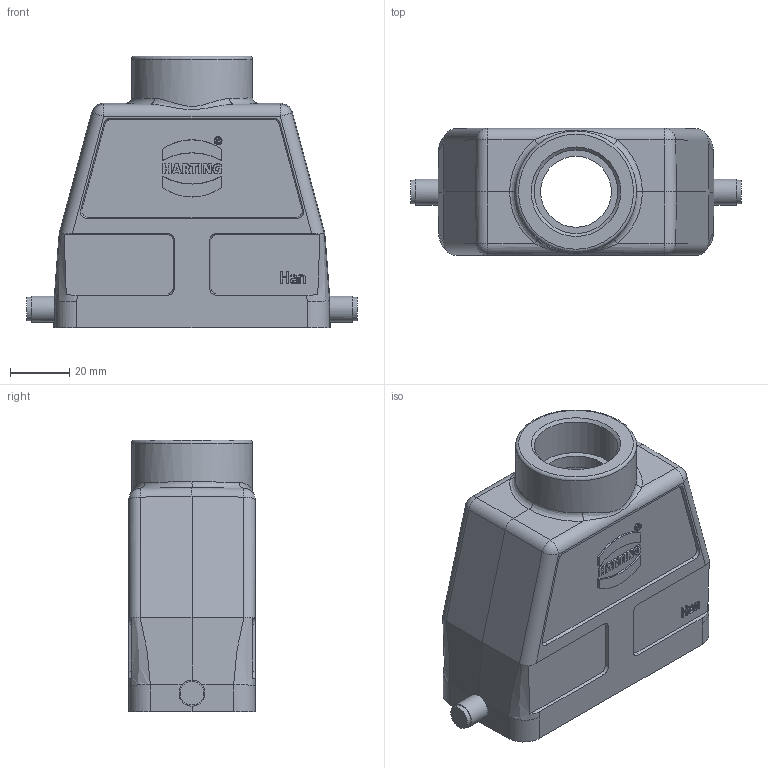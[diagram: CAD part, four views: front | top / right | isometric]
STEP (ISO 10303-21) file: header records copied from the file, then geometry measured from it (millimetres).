
FILE_DESCRIPTION(/* description */ (''),/* implementation_level */ '2;1');
FILE_NAME(/* name */ '100764732ugm000_a.stp',/* time_stamp */ '2022-03-12T06:51:20+01:00',/* author */ (''),/* organization */ (''),/* preprocessor_version */ 'ST-DEVELOPER v16.7',/* originating_system */ 'SIEMENS PLM Software NX 1911',/* authorisation */ '');
FILE_SCHEMA (('AUTOMOTIVE_DESIGN { 1 0 10303 214 3 1 1 1 }'));
Length unit declared in the file: millimetre
Products named in the file (1): 100764732ugm000_a
Bounding box: 112 x 43 x 92 mm (x, y, z)
Volume: 76900 mm3; surface area: 45073.8 mm2
Topology: 1 solids, 3 shells, 360 faces, 918 edges, 588 vertices
Faces by surface type: plane 203, cylinder 77, bspline 56, cone 15, sphere 8, torus 1
Full cylindrical faces by diameter (mm): 3 x4, 4 x2, 4.97 x2, 8 x2, 8.8 x2, 24 x1, 28.3 x1, 41 x1
Entity records: 12472 total; most frequent: CARTESIAN_POINT 3359, ORIENTED_EDGE 1770, DIRECTION 1572, EDGE_CURVE 885, VERTEX_POINT 579, LINE 552, VECTOR 552, AXIS2_PLACEMENT_3D 510
